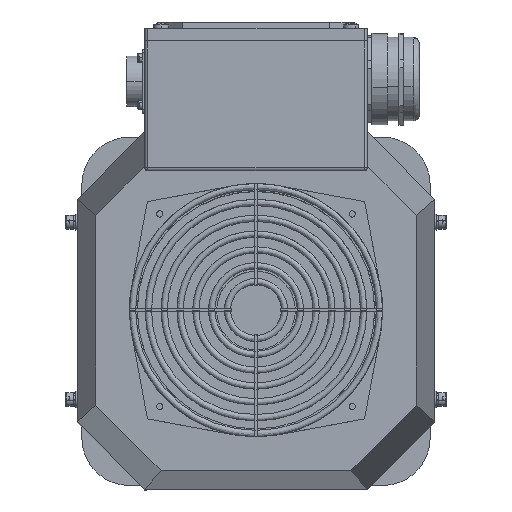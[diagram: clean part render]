
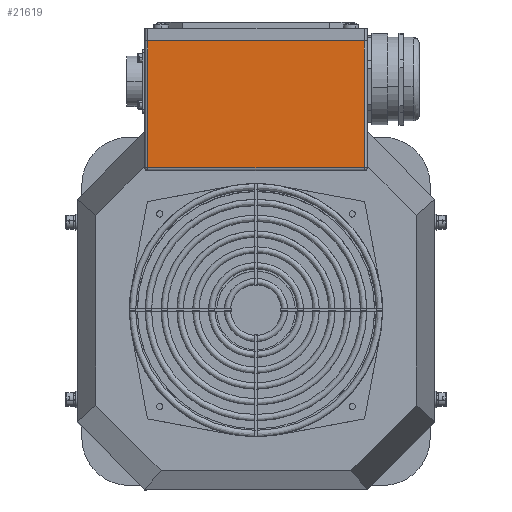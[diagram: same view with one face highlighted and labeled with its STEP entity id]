
A CAD part, top view. The second image highlights one B-rep face of the part: STEP entity #21619.
In plain terms, the highlighted planar face has unit normal (0, 0, 1).
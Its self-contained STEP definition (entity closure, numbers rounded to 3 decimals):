
#224 = DIRECTION ( 'NONE',  ( 1., 0., 0. ) ) ;
#2841 = DIRECTION ( 'NONE',  ( 1., 0., 0. ) ) ;
#2972 = ORIENTED_EDGE ( 'NONE', *, *, #32321, .T. ) ;
#3152 = VECTOR ( 'NONE', #224, 1000. ) ;
#3468 = PLANE ( 'NONE',  #43164 ) ;
#5782 = VECTOR ( 'NONE', #16634, 1000. ) ;
#6068 = ORIENTED_EDGE ( 'NONE', *, *, #48188, .F. ) ;
#7863 = DIRECTION ( 'NONE',  ( 0., 0., -1. ) ) ;
#14583 = VERTEX_POINT ( 'NONE', #54817 ) ;
#16303 = EDGE_CURVE ( 'NONE', #14583, #42291, #38322, .T. ) ;
#16634 = DIRECTION ( 'NONE',  ( -1., 0., 0. ) ) ;
#17381 = ORIENTED_EDGE ( 'NONE', *, *, #18070, .T. ) ;
#18070 = EDGE_CURVE ( 'NONE', #41702, #42291, #55288, .T. ) ;
#19554 = VECTOR ( 'NONE', #25325, 1000. ) ;
#20292 = LINE ( 'NONE', #58370, #19554 ) ;
#21081 = VERTEX_POINT ( 'NONE', #26740 ) ;
#21619 = ADVANCED_FACE ( 'NONE', ( #51210 ), #3468, .F. ) ;
#23202 = DIRECTION ( 'NONE',  ( 0., 1., 0. ) ) ;
#25325 = DIRECTION ( 'NONE',  ( 0., -1., 0. ) ) ;
#25756 = CARTESIAN_POINT ( 'NONE',  ( 68.25, 90., 465. ) ) ;
#26740 = CARTESIAN_POINT ( 'NONE',  ( -68.25, 90., 465. ) ) ;
#31882 = CARTESIAN_POINT ( 'NONE',  ( -68.25, 170., 465. ) ) ;
#32321 = EDGE_CURVE ( 'NONE', #14583, #21081, #20292, .T. ) ;
#34251 = CARTESIAN_POINT ( 'NONE',  ( 68.25, 170., 465. ) ) ;
#38322 = LINE ( 'NONE', #61863, #3152 ) ;
#38547 = EDGE_LOOP ( 'NONE', ( #6068, #17381, #50925, #2972 ) ) ;
#41702 = VERTEX_POINT ( 'NONE', #25756 ) ;
#42291 = VERTEX_POINT ( 'NONE', #34251 ) ;
#43164 = AXIS2_PLACEMENT_3D ( 'NONE', #31882, #7863, #2841 ) ;
#45254 = CARTESIAN_POINT ( 'NONE',  ( 0., 90., 465. ) ) ;
#48188 = EDGE_CURVE ( 'NONE', #41702, #21081, #49937, .T. ) ;
#49937 = LINE ( 'NONE', #45254, #5782 ) ;
#50925 = ORIENTED_EDGE ( 'NONE', *, *, #16303, .F. ) ;
#51210 = FACE_OUTER_BOUND ( 'NONE', #38547, .T. ) ;
#54817 = CARTESIAN_POINT ( 'NONE',  ( -68.25, 170., 465. ) ) ;
#55288 = LINE ( 'NONE', #56427, #57512 ) ;
#56427 = CARTESIAN_POINT ( 'NONE',  ( 68.25, 130., 465. ) ) ;
#57512 = VECTOR ( 'NONE', #23202, 1000. ) ;
#58370 = CARTESIAN_POINT ( 'NONE',  ( -68.25, 130., 465. ) ) ;
#61863 = CARTESIAN_POINT ( 'NONE',  ( 0., 170., 465. ) ) ;
